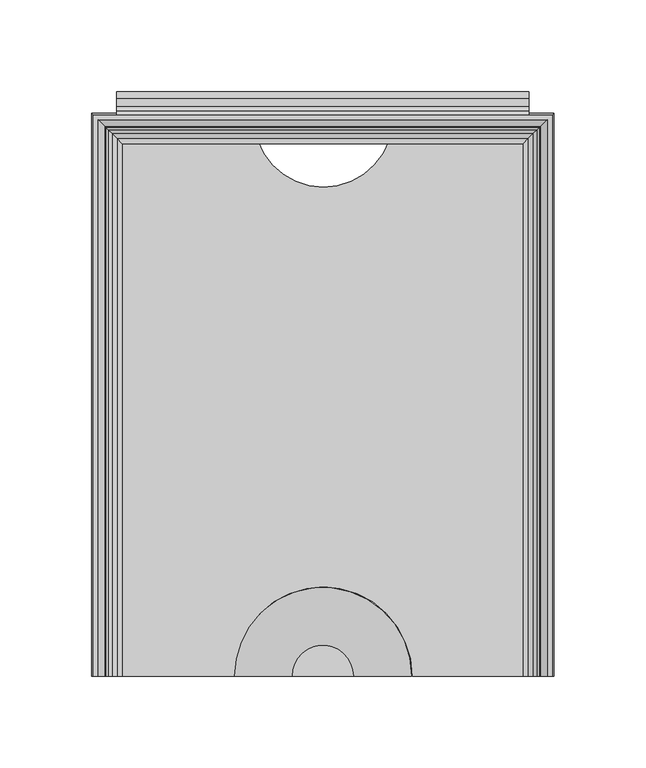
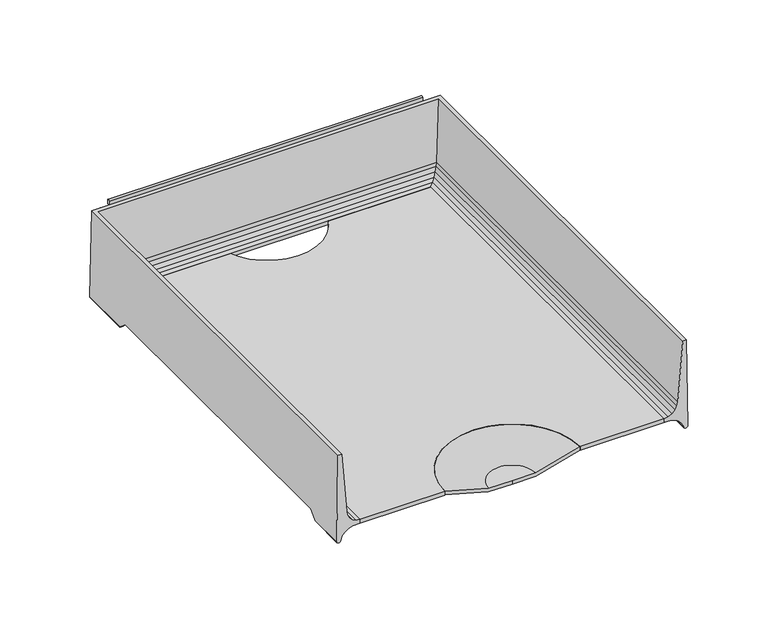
"""IFC4 building model written with IfcOpenShell, lengths in millimetres: furniture geometry."""

from ifc_helpers import new_model, si_unit, point, frame, frame_2d, origin, place, context, project, spatial, polyline, circle_curve, ellipse_curve, trimmed, segment, composite_curve, outline, extrude, source, transform, mapped, element, save
from ifc_brep_helpers import plane_surface, cylinder_surface, revolved_surface, advanced_brep


def furniture_d119ae5b(model_context):
    return source(origin(), model_context, "Body", "SolidModel", [
        advanced_brep(
        [(126.0820502, -154.0206082, 772.8007489), (125.1325529, -154.0206082, 838.2001914), (122.4547921, -154.0206082, 838.2001914), (118.8379747, -154.0206082, 793.4131003), (118.4123648, -154.0206082, 790.6796052), (117.0774354, -154.0206082, 787.9785664), (114.9656457, -154.0206082, 785.8296015), (112.28832, -154.0206082, 784.4477261), (109.3133381, -154.0206082, 783.9712052), (109.3133381, -154.0206082, 781.1490971), (114.5666739, -154.0206082, 780.9560987), (117.605351, -154.0206082, 779.8997218), (120.2416, -154.0206082, 778.0558822), (122.2762142, -154.0206082, 775.5639079), (123.1625518, -154.0206082, 772.5206655), (126.0820502, -127.6379698, 772.8007489), (126.0026181, -121.5231874, 778.271872), (126.0026181, 109.0611937, 778.271872), (126.0820502, 115.1759816, 772.8007489), (126.0820502, 153.036442, 772.8007489), (125.1325529, 152.0869447, 838.2001914), (-125.1325529, 152.0869447, 838.2001914), (-125.1325529, -154.0206082, 838.2001914), (-122.4547921, -154.0206082, 838.2001914), (-122.4547921, 149.4091839, 838.2001914), (122.4547921, 149.4091839, 838.2001914), (118.8379747, 145.7923665, 793.4131003), (118.4123648, 145.3667566, 790.6796052), (117.0774354, 144.0318272, 787.9785664), (114.9656457, 141.9200375, 785.8296015), (112.28832, 139.2427118, 784.4477261), (109.3133381, 136.2677299, 783.9712052), (109.3133381, 136.2677299, 781.1490971), (114.5666739, 141.5210656, 780.9560987), (117.605351, 144.5597428, 779.8997218), (120.2416, 147.1959918, 778.0558822), (120.2416, 109.3025941, 778.0558822), (119.9327864, 109.0611937, 778.271872), (119.9327864, -121.5231874, 778.271872), (120.2416, -121.7645876, 778.0558822), (122.2762142, -124.5497344, 775.5639079), (122.2762142, 149.230606, 775.5639079), (122.2762142, 112.0877435, 775.5639079), (123.1625518, -127.9510041, 772.5206655), (123.1625518, 150.1169436, 772.5206655), (123.1625518, 115.4890162, 772.5206655), (-126.0820502, 153.036442, 772.8007489), (-118.8379747, 145.7923665, 793.4131003), (-118.4123648, 145.3667566, 790.6796052), (-117.0774354, 144.0318272, 787.9785664), (-114.9656457, 141.9200375, 785.8296015), (-112.28832, 139.2427118, 784.4477261), (-109.3133381, 136.2677299, 783.9712052), (-109.3133381, 136.2677299, 781.1490971), (-114.5666739, 141.5210656, 780.9560987), (-117.605351, 144.5597428, 779.8997218), (-120.2416, 147.1959918, 778.0558822), (-122.2762142, 149.230606, 775.5639079), (-123.1625518, 150.1169436, 772.5206655), (-126.0820502, -154.0206082, 772.8007489), (-123.1625518, -154.0206082, 772.5206655), (-122.2762142, -154.0206082, 775.5639079), (-120.2416, -154.0206082, 778.0558822), (-117.605351, -154.0206082, 779.8997218), (-114.5666739, -154.0206082, 780.9560987), (-109.3133381, -154.0206082, 781.1490971), (-109.3133381, -154.0206082, 783.9712052), (-112.28832, -154.0206082, 784.4477261), (-114.9656457, -154.0206082, 785.8296015), (-117.0774354, -154.0206082, 787.9785664), (-118.4123648, -154.0206082, 790.6796052), (-118.8379747, -154.0206082, 793.4131003), (-126.0820502, 115.1759816, 772.8007489), (-126.0026181, 109.0611937, 778.271872), (-126.0026181, -121.5231874, 778.271872), (-126.0820502, -127.6379698, 772.8007489), (-120.2416, -121.7645876, 778.0558822), (-119.9327864, -121.5231874, 778.271872), (-119.9327864, 109.0611937, 778.271872), (-120.2416, 109.3025941, 778.0558822), (-122.2762142, 112.0877435, 775.5639079), (-122.2762142, -124.5497344, 775.5639079), (-123.1625518, 115.4890162, 772.5206655), (-123.1625518, -127.9510041, 772.5206655)],
        [
            (0, 1),
            (1, 2),
            (2, 3),
            (3, 4),
            (4, 5),
            (5, 6),
            (6, 7),
            (7, 8),
            (8, 9),
            (9, 10),
            (10, 11),
            (11, 12),
            (12, 13),
            (13, 14),
            (14, 0, circle_curve(frame((124.5859452, -154.0206082, 773.0396685), z_axis=(0.0, -1.0, 0.0), x_axis=(-1.0, 0.0, 0.0)), 1.515062)),
            (0, 15),
            (15, 16),
            (16, 17),
            (17, 18),
            (18, 19),
            (19, 20),
            (20, 1),
            (20, 21),
            (21, 22),
            (22, 23),
            (23, 24),
            (24, 25),
            (25, 2),
            (25, 26),
            (26, 3),
            (26, 27),
            (27, 4),
            (27, 28),
            (28, 5),
            (28, 29),
            (29, 6),
            (29, 30),
            (30, 7),
            (30, 31),
            (31, 8),
            (31, 32),
            (32, 9),
            (32, 33),
            (33, 10),
            (33, 34),
            (34, 11),
            (34, 35),
            (35, 36),
            (36, 37),
            (37, 38),
            (38, 39),
            (39, 12),
            (39, 40),
            (40, 13),
            (35, 41),
            (41, 42),
            (42, 36),
            (40, 43),
            (43, 14),
            (41, 44),
            (44, 45),
            (45, 42),
            (43, 15, ellipse_curve(frame((124.5859452, -127.3709422, 773.0396685), z_axis=(0.0, -0.6667949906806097, 0.7452411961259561), x_axis=(0.0, -0.7452411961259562, -0.6667949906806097)), 2.2721556, 1.515062)),
            (44, 19, ellipse_curve(frame((124.5859452, 151.540337, 773.0396685), z_axis=(0.7071067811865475, -0.7071067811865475, 0.0), x_axis=(-0.7071067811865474, -0.7071067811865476, 0.0)), 2.1426212, 1.515062)),
            (18, 45, ellipse_curve(frame((124.5859452, 114.9089538, 773.0396685), z_axis=(0.0, 0.6667946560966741, 0.7452414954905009), x_axis=(0.0, -0.7452414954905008, 0.6667946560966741)), 2.2721567, 1.515062)),
            (19, 46),
            (46, 21),
            (24, 47),
            (47, 26),
            (47, 48),
            (48, 27),
            (48, 49),
            (49, 28),
            (49, 50),
            (50, 29),
            (50, 51),
            (51, 30),
            (51, 52),
            (52, 31),
            (52, 53),
            (53, 32),
            (53, 54),
            (54, 33),
            (54, 55),
            (55, 34),
            (55, 56),
            (56, 35),
            (56, 57),
            (57, 41),
            (57, 58),
            (58, 44),
            (58, 46, ellipse_curve(frame((-124.5859452, 151.540337, 773.0396685), z_axis=(0.7071067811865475, 0.7071067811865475, 0.0), x_axis=(0.7071067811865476, -0.7071067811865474, 0.0)), 2.1426212, 1.515062)),
            (22, 59),
            (59, 60, circle_curve(frame((-124.5859452, -154.0206082, 773.0396685), z_axis=(0.0, -1.0, 0.0), x_axis=(1.0, 0.0, 0.0)), 1.515062)),
            (60, 61),
            (61, 62),
            (62, 63),
            (63, 64),
            (64, 65),
            (65, 66),
            (66, 67),
            (67, 68),
            (68, 69),
            (69, 70),
            (70, 71),
            (71, 23),
            (46, 72),
            (72, 73),
            (73, 74),
            (74, 75),
            (75, 59),
            (71, 47),
            (70, 48),
            (69, 49),
            (68, 50),
            (67, 51),
            (66, 52),
            (65, 53),
            (64, 54),
            (63, 55),
            (62, 76),
            (76, 77),
            (77, 78),
            (78, 79),
            (79, 56),
            (79, 80),
            (80, 57),
            (61, 81),
            (81, 76),
            (80, 82),
            (82, 58),
            (60, 83),
            (83, 81),
            (82, 72, ellipse_curve(frame((-124.5859452, 114.9089538, 773.0396685), z_axis=(0.0, 0.6667946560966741, 0.7452414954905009), x_axis=(0.0, 0.7452414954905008, -0.6667946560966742)), 2.2721567, 1.515062)),
            (75, 83, ellipse_curve(frame((-124.5859452, -127.3709422, 773.0396685), z_axis=(0.0, -0.6667949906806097, 0.7452411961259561), x_axis=(0.0, 0.745241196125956, 0.6667949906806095)), 2.2721556, 1.515062)),
            (38, 16),
            (74, 77),
            (37, 17),
            (73, 78),
        ],
        [
            plane_surface(frame((127.0, -154.0206082, 771.525), z_axis=(0.0, -1.0, 0.0), x_axis=(0.0, 0.0, 1.0))),
            plane_surface(frame((126.0820502, -154.0206082, 772.8007489), z_axis=(0.9998946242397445, 0.0, 0.014516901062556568), x_axis=(0.0, 1.0, 0.0))),
            plane_surface(frame((125.1325529, -154.0206082, 838.2001914), z_axis=(0.0, 0.0, 1.0), x_axis=(0.0, 1.0, 0.0))),
            plane_surface(frame((122.4547921, -154.0206082, 838.2001914), z_axis=(-0.9967551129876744, 0.0, 0.08049375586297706), x_axis=(0.0, 1.0, 0.0))),
            plane_surface(frame((118.8379747, -154.0206082, 793.4131003), z_axis=(-0.9880945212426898, 0.0, 0.15384803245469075), x_axis=(0.0, 1.0, 0.0))),
            plane_surface(frame((118.4123648, -154.0206082, 790.6796052), z_axis=(-0.8964873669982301, 0.0, 0.44306929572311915), x_axis=(0.0, 1.0, 0.0))),
            plane_surface(frame((117.0774354, -154.0206082, 787.9785664), z_axis=(-0.7132491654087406, 0.0, 0.7009105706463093), x_axis=(0.0, 1.0, 0.0))),
            plane_surface(frame((114.9656457, -154.0206082, 785.8296015), z_axis=(-0.45865074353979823, 0.0, 0.8886166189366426), x_axis=(0.0, 1.0, 0.0))),
            plane_surface(frame((112.28832, -154.0206082, 784.4477261), z_axis=(-0.15816001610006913, 0.0, 0.987413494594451), x_axis=(0.0, 1.0, 0.0))),
            plane_surface(frame((109.3133381, -154.0206082, 783.9712052), z_axis=(-1.0, 0.0, 0.0), x_axis=(0.0, 1.0, 0.0))),
            plane_surface(frame((109.3133381, -154.0206082, 781.1490971), z_axis=(-0.036713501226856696, 0.0, -0.9993258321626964), x_axis=(0.0, 1.0, 0.0))),
            plane_surface(frame((114.5666739, -154.0206082, 780.9560987), z_axis=(-0.3283669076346, 0.0, -0.9445502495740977), x_axis=(0.0, 1.0, 0.0))),
            plane_surface(frame((117.605351, -154.0206082, 779.8997218), z_axis=(-0.5731421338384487, 0.0, -0.819455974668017), x_axis=(0.0, 1.0, 0.0))),
            plane_surface(frame((120.2416, -154.0206082, 778.0558822), z_axis=(-0.77460799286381, 0.0, -0.6324416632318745), x_axis=(0.0, 1.0, 0.0))),
            plane_surface(frame((122.2762142, -154.0206082, 775.5639079), z_axis=(-0.9601080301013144, 0.0, -0.2796293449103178), x_axis=(0.0, 1.0, 0.0))),
            cylinder_surface(frame((124.5859452, -154.0206082, 773.0396685), z_axis=(0.0, -1.0, 0.0), x_axis=(-1.0, 0.0, 0.0)), 1.515062),
            plane_surface(frame((126.0820502, 153.036442, 772.8007489), z_axis=(0.0, 0.9998946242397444, 0.014516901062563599), x_axis=(-1.0, 0.0, 0.0))),
            plane_surface(frame((122.4547921, 149.4091839, 838.2001914), z_axis=(0.0, -0.9967551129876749, 0.08049375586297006), x_axis=(-1.0, 0.0, 0.0))),
            plane_surface(frame((118.8379747, 145.7923665, 793.4131003), z_axis=(0.0, -0.9880945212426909, 0.15384803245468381), x_axis=(-1.0, 0.0, 0.0))),
            plane_surface(frame((118.4123648, 145.3667566, 790.6796052), z_axis=(0.0, -0.8964873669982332, 0.4430692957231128), x_axis=(-1.0, 0.0, 0.0))),
            plane_surface(frame((117.0774354, 144.0318272, 787.9785664), z_axis=(0.0, -0.7132491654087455, 0.7009105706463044), x_axis=(-1.0, 0.0, 0.0))),
            plane_surface(frame((114.9656457, 141.9200375, 785.8296015), z_axis=(0.0, -0.4586507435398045, 0.8886166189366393), x_axis=(-1.0, 0.0, 0.0))),
            plane_surface(frame((112.28832, 139.2427118, 784.4477261), z_axis=(0.0, -0.15816001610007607, 0.9874134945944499), x_axis=(-1.0, 0.0, 0.0))),
            plane_surface(frame((109.3133381, 136.2677299, 783.9712052), z_axis=(0.0, -1.0, 0.0), x_axis=(-1.0, 0.0, 0.0))),
            plane_surface(frame((109.3133381, 136.2677299, 781.1490971), z_axis=(0.0, -0.03671350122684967, -0.9993258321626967), x_axis=(-1.0, 0.0, 0.0))),
            plane_surface(frame((114.5666739, 141.5210656, 780.9560987), z_axis=(0.0, -0.32836690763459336, -0.9445502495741), x_axis=(-1.0, 0.0, 0.0))),
            plane_surface(frame((117.605351, 144.5597428, 779.8997218), z_axis=(0.0, -0.5731421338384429, -0.819455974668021), x_axis=(-1.0, 0.0, 0.0))),
            plane_surface(frame((120.2416, 147.1959918, 778.0558822), z_axis=(0.0, -0.7746079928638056, -0.6324416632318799), x_axis=(-1.0, 0.0, 0.0))),
            plane_surface(frame((122.2762142, 149.230606, 775.5639079), z_axis=(0.0, -0.9601080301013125, -0.27962934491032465), x_axis=(-1.0, 0.0, 0.0))),
            cylinder_surface(frame((127.0, 151.540337, 773.0396685), z_axis=(1.0, 0.0, 0.0), x_axis=(0.0, -1.0, 0.0)), 1.515062),
            plane_surface(frame((-127.0, -154.0206082, 771.525), z_axis=(0.0, -1.0, 0.0), x_axis=(0.0, 0.0, 1.0))),
            plane_surface(frame((-126.0820502, 153.036442, 772.8007489), z_axis=(-0.9998946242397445, 0.0, 0.014516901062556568), x_axis=(0.0, -1.0, 0.0))),
            plane_surface(frame((-122.4547921, 149.4091839, 838.2001914), z_axis=(0.9967551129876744, 0.0, 0.08049375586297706), x_axis=(0.0, -1.0, 0.0))),
            plane_surface(frame((-118.8379747, 145.7923665, 793.4131003), z_axis=(0.9880945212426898, 0.0, 0.15384803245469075), x_axis=(0.0, -1.0, 0.0))),
            plane_surface(frame((-118.4123648, 145.3667566, 790.6796052), z_axis=(0.8964873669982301, 0.0, 0.44306929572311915), x_axis=(0.0, -1.0, 0.0))),
            plane_surface(frame((-117.0774354, 144.0318272, 787.9785664), z_axis=(0.7132491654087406, 0.0, 0.7009105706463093), x_axis=(0.0, -1.0, 0.0))),
            plane_surface(frame((-114.9656457, 141.9200375, 785.8296015), z_axis=(0.45865074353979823, 0.0, 0.8886166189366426), x_axis=(0.0, -1.0, 0.0))),
            plane_surface(frame((-112.28832, 139.2427118, 784.4477261), z_axis=(0.15816001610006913, 0.0, 0.987413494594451), x_axis=(0.0, -1.0, 0.0))),
            plane_surface(frame((-109.3133381, 136.2677299, 783.9712052), z_axis=(1.0, 0.0, 0.0), x_axis=(0.0, -1.0, 0.0))),
            plane_surface(frame((-109.3133381, 136.2677299, 781.1490971), z_axis=(0.036713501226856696, 0.0, -0.9993258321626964), x_axis=(0.0, -1.0, 0.0))),
            plane_surface(frame((-114.5666739, 141.5210656, 780.9560987), z_axis=(0.3283669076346, 0.0, -0.9445502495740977), x_axis=(0.0, -1.0, 0.0))),
            plane_surface(frame((-117.605351, 144.5597428, 779.8997218), z_axis=(0.5731421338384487, 0.0, -0.819455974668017), x_axis=(0.0, -1.0, 0.0))),
            plane_surface(frame((-120.2416, 147.1959918, 778.0558822), z_axis=(0.77460799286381, 0.0, -0.6324416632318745), x_axis=(0.0, -1.0, 0.0))),
            plane_surface(frame((-122.2762142, 149.230606, 775.5639079), z_axis=(0.9601080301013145, 0.0, -0.2796293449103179), x_axis=(0.0, -1.0, 0.0))),
            cylinder_surface(frame((-124.5859452, 153.9543918, 773.0396685), z_axis=(0.0, 1.0, 0.0), x_axis=(1.0, 0.0, 0.0)), 1.515062),
            plane_surface(frame((-127.0, -130.1695728, 770.5356296), z_axis=(0.0, 0.6667949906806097, -0.7452411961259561), x_axis=(1.0, 0.0, 0.0))),
            plane_surface(frame((-127.0, -121.5231874, 778.271872), z_axis=(0.0, 0.0, -1.0), x_axis=(1.0, 0.0, 0.0))),
            plane_surface(frame((-127.0, 109.0611937, 778.271872), z_axis=(0.0, -0.6667946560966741, -0.7452414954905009), x_axis=(1.0, 0.0, 0.0))),
        ],
        [
            (0, [[1, 2, 3, 4, 5, 6, 7, 8, 9, 10, 11, 12, 13, 14, 15]]),
            (1, [[-1, 16, 17, 18, 19, 20, 21, 22]]),
            (2, [[-2, -22, 23, 24, 25, 26, 27, 28]]),
            (3, [[-3, -28, 29, 30]]),
            (4, [[-4, -30, 31, 32]]),
            (5, [[-5, -32, 33, 34]]),
            (6, [[-6, -34, 35, 36]]),
            (7, [[-7, -36, 37, 38]]),
            (8, [[-8, -38, 39, 40]]),
            (9, [[-9, -40, 41, 42]]),
            (10, [[-10, -42, 43, 44]]),
            (11, [[-11, -44, 45, 46]]),
            (12, [[-12, -46, 47, 48, 49, 50, 51, 52]]),
            (13, [[-13, -52, 53, 54]]),
            (13, [[55, 56, 57, -48]]),
            (14, [[-14, -54, 58, 59]]),
            (14, [[60, 61, 62, -56]]),
            (15, [[-15, -59, 63, -16]]),
            (15, [[64, -20, 65, -61]]),
            (16, [[-21, 66, 67, -23]]),
            (17, [[-27, 68, 69, -29]]),
            (18, [[-31, -69, 70, 71]]),
            (19, [[-33, -71, 72, 73]]),
            (20, [[-35, -73, 74, 75]]),
            (21, [[-37, -75, 76, 77]]),
            (22, [[-39, -77, 78, 79]]),
            (23, [[-41, -79, 80, 81]]),
            (24, [[-43, -81, 82, 83]]),
            (25, [[-45, -83, 84, 85]]),
            (26, [[-47, -85, 86, 87]]),
            (27, [[-55, -87, 88, 89]]),
            (28, [[-60, -89, 90, 91]]),
            (29, [[-64, -91, 92, -66]]),
            (30, [[-25, 93, 94, 95, 96, 97, 98, 99, 100, 101, 102, 103, 104, 105, 106]]),
            (31, [[-24, -67, 107, 108, 109, 110, 111, -93]]),
            (32, [[-26, -106, 112, -68]]),
            (33, [[-70, -112, -105, 113]]),
            (34, [[-72, -113, -104, 114]]),
            (35, [[-74, -114, -103, 115]]),
            (36, [[-76, -115, -102, 116]]),
            (37, [[-78, -116, -101, 117]]),
            (38, [[-80, -117, -100, 118]]),
            (39, [[-82, -118, -99, 119]]),
            (40, [[-84, -119, -98, 120]]),
            (41, [[-86, -120, -97, 121, 122, 123, 124, 125]]),
            (42, [[-88, -125, 126, 127]]),
            (42, [[-96, 128, 129, -121]]),
            (43, [[-90, -127, 130, 131]]),
            (43, [[-95, 132, 133, -128]]),
            (44, [[-92, -131, 134, -107]]),
            (44, [[-94, -111, 135, -132]]),
            (45, [[136, -17, -63, -58, -53, -51]]),
            (45, [[137, -122, -129, -133, -135, -110]]),
            (46, [[-136, -50, 138, -18]]),
            (46, [[-137, -109, 139, -123]]),
            (47, [[-138, -49, -57, -62, -65, -19]]),
            (47, [[-139, -108, -134, -130, -126, -124]]),
        ],
    ),
        extrude(outline(composite_curve([segment(polyline([(-109.3647805, 138.2769393), (-35.6610422, 138.2769393)]), True, "CONTINUOUS"), segment(trimmed(circle_curve(frame_2d((0.3369133, 150.6584166)), 38.0677525), [point((-35.6610422, 138.2769393))], [point((36.3348688, 138.2769393))], True, "CARTESIAN"), True, "CONTINUOUS"), segment(polyline([(36.3348688, 138.2769393), (109.6504969, 138.2769393), (109.6504969, -153.9875), (48.9112184, -153.9875)]), True, "CONTINUOUS"), segment(trimmed(circle_curve(frame_2d((0.2842795, -153.9323196)), 48.6269702), [point((48.9112184, -153.9875))], [point((-48.3426595, -153.9875))], True, "CARTESIAN"), True, "CONTINUOUS"), segment(polyline([(-48.3426595, -153.9875), (-109.3647805, -153.9875), (-109.3647805, 138.2769393)]), True, "CONTINUOUS")], self_intersect=False)), frame((0.0, 0.0, 781.1314677), z_axis=(0.0, 0.0, 1.0), x_axis=(1.0, 0.0, 0.0)), (0.0, 0.0, 1.0), 2.8395461),
        extrude(outline(composite_curve([segment(trimmed(circle_curve(frame_2d((162.7186949, 822.3707343)), 1.9049988), [point((164.6236937, 822.3707343))], [point((160.8136962, 822.3707343))], False, "CARTESIAN"), True, "CONTINUOUS"), segment(polyline([(160.8136962, 822.3707343), (160.8136962, 825.7997311), (160.0516969, 826.5617303), (156.4380325, 826.5617303), (152.1427596, 824.2143331), (152.1427596, 832.7191285), (156.4380325, 830.3717312), (160.8136928, 830.3717312)]), True, "CONTINUOUS"), segment(trimmed(circle_curve(frame_2d((160.8136928, 826.5617303)), 3.8100009), [point((160.8136928, 830.3717312))], [point((164.6236937, 826.5617303))], False, "CARTESIAN"), True, "CONTINUOUS"), segment(polyline([(164.6236937, 826.5617303), (164.6236937, 822.3707343)]), True, "CONTINUOUS")], self_intersect=False)), frame((-112.5397809, 0.0, 0.0), z_axis=(1.0, 0.0, 0.0), x_axis=(0.0, 1.0, 0.0)), (0.0, 0.0, 1.0), 225.0795617),
        advanced_brep(
        [(-16.8929028, -153.9875, 775.096875), (-48.4614622, -153.9875, 784.0045432), (-48.4614622, -153.9875, 781.4130018), (-16.9249292, -153.9875, 772.5143704), (0.0, -153.9875, 772.5143704), (0.0, -153.9875, 775.096875), (16.8929028, -153.9875, 775.096875), (16.9249292, -153.9875, 772.5143704), (48.4614622, -153.9875, 781.4130018), (48.4614622, -153.9875, 784.0045432)],
        [
            (0, 1),
            (1, 2),
            (2, 3),
            (3, 4),
            (4, 5),
            (5, 0),
            (6, 5),
            (4, 7),
            (7, 8),
            (8, 9),
            (9, 6),
            (9, 1, circle_curve(frame((0.0, -153.9875, 784.0045432), z_axis=(0.0, 0.0, 1.0), x_axis=(-1.0, 0.0, 0.0)), 48.4614622)),
            (0, 6, circle_curve(frame((0.0, -153.9875, 775.096875), z_axis=(0.0, 0.0, -1.0), x_axis=(-1.0, 0.0, 0.0)), 16.8929028)),
            (8, 2, circle_curve(frame((0.0, -153.9875, 781.4130018), z_axis=(0.0, 0.0, 1.0), x_axis=(-1.0, 0.0, 0.0)), 48.4614622)),
            (7, 3, circle_curve(frame((0.0, -153.9875, 772.5143704), z_axis=(0.0, 0.0, 1.0), x_axis=(-1.0, 0.0, 0.0)), 16.9249292)),
        ],
        [
            plane_surface(frame((0.0, -153.9875, 771.525), z_axis=(0.0, -1.0, 0.0), x_axis=(-1.0, 0.0, 0.0))),
            plane_surface(frame((0.0, -153.9875, 771.525), z_axis=(0.0, -1.0, 0.0), x_axis=(1.0, 0.0, 0.0))),
            revolved_surface(polyline([(-48.4614622, -153.9875, 784.0045432), (-16.8929028, -153.9875, 775.096875)]), (0.0, -153.9875, 771.525), (0.0, 0.0, 1.0)),
            cylinder_surface(frame((0.0, -153.9875, 771.525), z_axis=(0.0, 0.0, 1.0), x_axis=(-1.0, 0.0, 0.0)), 48.4614622),
            revolved_surface(polyline([(-16.9249292, -153.9875, 772.5143704), (-48.4614622, -153.9875, 781.4130018)]), (0.0, -153.9875, 771.525), (0.0, 0.0, 1.0)),
            plane_surface(frame((0.0, -153.9875, 772.5143704), z_axis=(0.0, 0.0, -1.0), x_axis=(-1.0, 0.0, 0.0))),
            plane_surface(frame((0.0, -153.9875, 775.096875), z_axis=(0.0, 0.0, 1.0), x_axis=(-1.0, 0.0, 0.0))),
        ],
        [
            (0, [[1, 2, 3, 4, 5, 6]]),
            (1, [[7, -5, 8, 9, 10, 11]]),
            (2, [[12, -1, 13, -11]]),
            (3, [[14, -2, -12, -10]]),
            (4, [[15, -3, -14, -9]]),
            (5, [[-4, -15, -8]]),
            (6, [[-13, -6, -7]]),
        ],
    ),
        extrude(outline(composite_curve([segment(polyline([(153.9875, 838.2), (152.1427596, 838.2), (152.1427596, 841.0315333)]), True, "CONTINUOUS"), segment(trimmed(circle_curve(frame_2d((153.0651298, 840.7262665)), 0.9715733), [point((152.1427596, 841.0315333))], [point((153.9875, 841.0315333))], False, "CARTESIAN"), True, "CONTINUOUS"), segment(polyline([(153.9875, 841.0315333), (153.9875, 838.2)]), True, "CONTINUOUS")], self_intersect=False)), frame((-112.5397809, 0.0, 0.0), z_axis=(1.0, 0.0, 0.0), x_axis=(0.0, 1.0, 0.0)), (0.0, 0.0, 1.0), 225.0795617),
    ])


if __name__ == "__main__":
    model = new_model("IFC4")
    model_context = context("Model", 3, world=origin())
    ifc_project = project(units=[si_unit("LENGTHUNIT", "METRE", prefix="MILLI")], contexts=[model_context])
    site = spatial("IfcSite", under=ifc_project)
    building = spatial("IfcBuilding", under=site)
    placement = place(None, origin())
    furniture_shape = furniture_d119ae5b(model_context)
    element("IfcFurniture", 1, ObjectType="HermanMiller_ThrivePortfolio_Y7216_PaperTray : 3\"H x 12\"D x 10\"W", at=placement, inside=building, context=model_context, shape_type="MappedRepresentation", body=[
        mapped(furniture_shape, transform((0.0, 0.0, 0.0), x_axis=(1.0, 0.0, 0.0), y_axis=(0.0, 1.0, 0.0), z_axis=(0.0, 0.0, 1.0))),
    ])
    save(model, "model.ifc")
